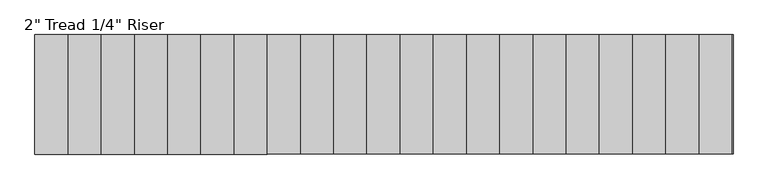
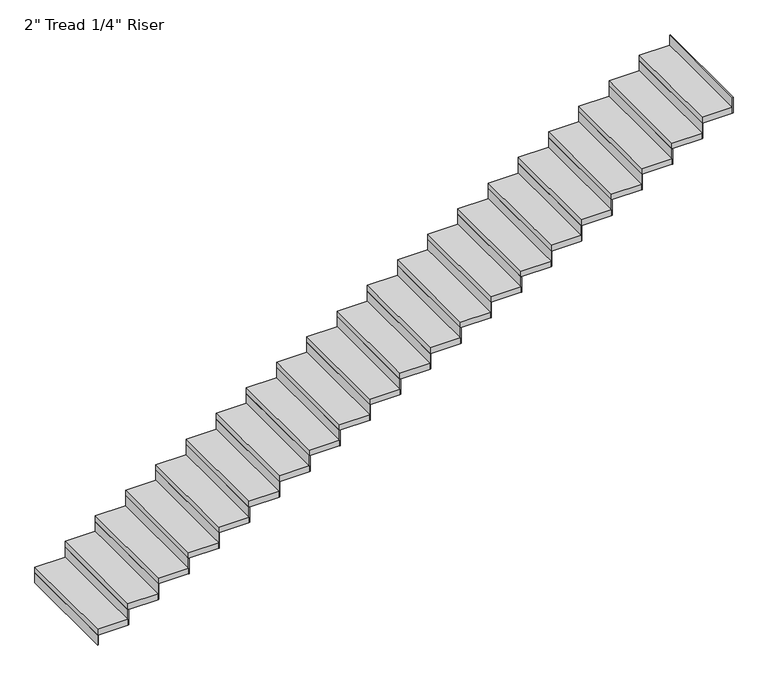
"""IFC4 building model written with IfcOpenShell, lengths in millimetres: stair flight geometry."""

from ifc_helpers import new_model, si_unit, frame, origin, origin_with_axes, place, context, project, spatial, polyline, outline, extrude, source, transform, mapped, element, save


def stair_flight_2d7099d6(model_context):
    return source(origin(), model_context, "Body", "SweptSolid", [
        extrude(outline(polyline([(10185.2072927, -70024.4426165), (10178.8572927, -70024.4426165), (10178.8572927, -69110.0426165), (10185.2072927, -69110.0426165), (10185.2072927, -70024.4426165)])), origin_with_axes(), (0.0, 0.0, 1.0), 87.7454545),
        extrude(outline(polyline([(10432.8572927, -69110.0426165), (10432.8572927, -70024.4426165), (10178.8572927, -70024.4426165), (10178.8572927, -69110.0426165), (10432.8572927, -69110.0426165)])), frame((0.0, 0.0, 87.7454545), z_axis=(0.0, 0.0, 1.0), x_axis=(1.0, 0.0, 0.0)), (0.0, 0.0, 1.0), 50.8),
        extrude(outline(polyline([(10439.2072927, -70024.4426165), (10432.8572927, -70024.4426165), (10432.8572927, -69110.0426165), (10439.2072927, -69110.0426165), (10439.2072927, -70024.4426165)])), frame((0.0, 0.0, 87.7454545), z_axis=(0.0, 0.0, 1.0), x_axis=(1.0, 0.0, 0.0)), (0.0, 0.0, 1.0), 138.5454545),
        extrude(outline(polyline([(10686.8572927, -69110.0426165), (10686.8572927, -70024.4426165), (10432.8572927, -70024.4426165), (10432.8572927, -69110.0426165), (10686.8572927, -69110.0426165)])), frame((0.0, 0.0, 226.2909091), z_axis=(0.0, 0.0, 1.0), x_axis=(1.0, 0.0, 0.0)), (0.0, 0.0, 1.0), 50.8),
        extrude(outline(polyline([(10693.2072927, -70024.4426165), (10686.8572927, -70024.4426165), (10686.8572927, -69110.0426165), (10693.2072927, -69110.0426165), (10693.2072927, -70024.4426165)])), frame((0.0, 0.0, 226.2909091), z_axis=(0.0, 0.0, 1.0), x_axis=(1.0, 0.0, 0.0)), (0.0, 0.0, 1.0), 138.5454545),
        extrude(outline(polyline([(10940.8572927, -69110.0426165), (10940.8572927, -70024.4426165), (10686.8572927, -70024.4426165), (10686.8572927, -69110.0426165), (10940.8572927, -69110.0426165)])), frame((0.0, 0.0, 364.8363636), z_axis=(0.0, 0.0, 1.0), x_axis=(1.0, 0.0, 0.0)), (0.0, 0.0, 1.0), 50.8),
        extrude(outline(polyline([(10947.2072927, -70024.4426165), (10940.8572927, -70024.4426165), (10940.8572927, -69110.0426165), (10947.2072927, -69110.0426165), (10947.2072927, -70024.4426165)])), frame((0.0, 0.0, 364.8363636), z_axis=(0.0, 0.0, 1.0), x_axis=(1.0, 0.0, 0.0)), (0.0, 0.0, 1.0), 138.5454545),
        extrude(outline(polyline([(11194.8572927, -69110.0426165), (11194.8572927, -70024.4426165), (10940.8572927, -70024.4426165), (10940.8572927, -69110.0426165), (11194.8572927, -69110.0426165)])), frame((0.0, 0.0, 503.3818182), z_axis=(0.0, 0.0, 1.0), x_axis=(1.0, 0.0, 0.0)), (0.0, 0.0, 1.0), 50.8),
        extrude(outline(polyline([(11201.2072927, -70024.4426165), (11194.8572927, -70024.4426165), (11194.8572927, -69110.0426165), (11201.2072927, -69110.0426165), (11201.2072927, -70024.4426165)])), frame((0.0, 0.0, 503.3818182), z_axis=(0.0, 0.0, 1.0), x_axis=(1.0, 0.0, 0.0)), (0.0, 0.0, 1.0), 138.5454545),
        extrude(outline(polyline([(11448.8572927, -69110.0426165), (11448.8572927, -70024.4426165), (11194.8572927, -70024.4426165), (11194.8572927, -69110.0426165), (11448.8572927, -69110.0426165)])), frame((0.0, 0.0, 641.9272727), z_axis=(0.0, 0.0, 1.0), x_axis=(1.0, 0.0, 0.0)), (0.0, 0.0, 1.0), 50.8),
        extrude(outline(polyline([(11455.2072927, -70024.4426165), (11448.8572927, -70024.4426165), (11448.8572927, -69110.0426165), (11455.2072927, -69110.0426165), (11455.2072927, -70024.4426165)])), frame((0.0, 0.0, 641.9272727), z_axis=(0.0, 0.0, 1.0), x_axis=(1.0, 0.0, 0.0)), (0.0, 0.0, 1.0), 138.5454545),
        extrude(outline(polyline([(11702.8572927, -69110.0426165), (11702.8572927, -70024.4426165), (11448.8572927, -70024.4426165), (11448.8572927, -69110.0426165), (11702.8572927, -69110.0426165)])), frame((0.0, 0.0, 780.4727273), z_axis=(0.0, 0.0, 1.0), x_axis=(1.0, 0.0, 0.0)), (0.0, 0.0, 1.0), 50.8),
        extrude(outline(polyline([(11709.2072927, -70024.4426165), (11702.8572927, -70024.4426165), (11702.8572927, -69110.0426165), (11709.2072927, -69110.0426165), (11709.2072927, -70024.4426165)])), frame((0.0, 0.0, 780.4727273), z_axis=(0.0, 0.0, 1.0), x_axis=(1.0, 0.0, 0.0)), (0.0, 0.0, 1.0), 138.5454545),
        extrude(outline(polyline([(11956.8572927, -69110.0426165), (11956.8572927, -70024.4426165), (11702.8572927, -70024.4426165), (11702.8572927, -69110.0426165), (11956.8572927, -69110.0426165)])), frame((0.0, 0.0, 919.0181818), z_axis=(0.0, 0.0, 1.0), x_axis=(1.0, 0.0, 0.0)), (0.0, 0.0, 1.0), 50.8),
        extrude(outline(polyline([(11963.2072927, -70024.4426165), (11956.8572927, -70024.4426165), (11956.8572927, -69110.0426165), (11963.2072927, -69110.0426165), (11963.2072927, -70024.4426165)])), frame((0.0, 0.0, 919.0181818), z_axis=(0.0, 0.0, 1.0), x_axis=(1.0, 0.0, 0.0)), (0.0, 0.0, 1.0), 138.5454545),
        extrude(outline(polyline([(12210.8572927, -69110.0426165), (12210.8572927, -70024.4426165), (11956.8572927, -70024.4426165), (11956.8572927, -69110.0426165), (12210.8572927, -69110.0426165)])), frame((0.0, 0.0, 1057.5636364), z_axis=(0.0, 0.0, 1.0), x_axis=(1.0, 0.0, 0.0)), (0.0, 0.0, 1.0), 50.8),
        extrude(outline(polyline([(12217.2072927, -70024.4426165), (12210.8572927, -70024.4426165), (12210.8572927, -69110.0426165), (12217.2072927, -69110.0426165), (12217.2072927, -70024.4426165)])), frame((0.0, 0.0, 1057.5636364), z_axis=(0.0, 0.0, 1.0), x_axis=(1.0, 0.0, 0.0)), (0.0, 0.0, 1.0), 138.5454545),
        extrude(outline(polyline([(12464.8572927, -69110.0426165), (12464.8572927, -70024.4426165), (12210.8572927, -70024.4426165), (12210.8572927, -69110.0426165), (12464.8572927, -69110.0426165)])), frame((0.0, 0.0, 1196.1090909), z_axis=(0.0, 0.0, 1.0), x_axis=(1.0, 0.0, 0.0)), (0.0, 0.0, 1.0), 50.8),
        extrude(outline(polyline([(12471.2072927, -70024.4426165), (12464.8572927, -70024.4426165), (12464.8572927, -69110.0426165), (12471.2072927, -69110.0426165), (12471.2072927, -70024.4426165)])), frame((0.0, 0.0, 1196.1090909), z_axis=(0.0, 0.0, 1.0), x_axis=(1.0, 0.0, 0.0)), (0.0, 0.0, 1.0), 138.5454545),
        extrude(outline(polyline([(12718.8572927, -69110.0426165), (12718.8572927, -70024.4426165), (12464.8572927, -70024.4426165), (12464.8572927, -69110.0426165), (12718.8572927, -69110.0426165)])), frame((0.0, 0.0, 1334.6545455), z_axis=(0.0, 0.0, 1.0), x_axis=(1.0, 0.0, 0.0)), (0.0, 0.0, 1.0), 50.8),
        extrude(outline(polyline([(12725.2072927, -70024.4426165), (12718.8572927, -70024.4426165), (12718.8572927, -69110.0426165), (12725.2072927, -69110.0426165), (12725.2072927, -70024.4426165)])), frame((0.0, 0.0, 1334.6545455), z_axis=(0.0, 0.0, 1.0), x_axis=(1.0, 0.0, 0.0)), (0.0, 0.0, 1.0), 138.5454545),
        extrude(outline(polyline([(12972.8572927, -69110.0426165), (12972.8572927, -70024.4426165), (12718.8572927, -70024.4426165), (12718.8572927, -69110.0426165), (12972.8572927, -69110.0426165)])), frame((0.0, 0.0, 1473.2), z_axis=(0.0, 0.0, 1.0), x_axis=(1.0, 0.0, 0.0)), (0.0, 0.0, 1.0), 50.8),
        extrude(outline(polyline([(12979.2072927, -70024.4426165), (12972.8572927, -70024.4426165), (12972.8572927, -69110.0426165), (12979.2072927, -69110.0426165), (12979.2072927, -70024.4426165)])), frame((0.0, 0.0, 1473.2), z_axis=(0.0, 0.0, 1.0), x_axis=(1.0, 0.0, 0.0)), (0.0, 0.0, 1.0), 138.5454545),
        extrude(outline(polyline([(13226.8572927, -69110.0426165), (13226.8572927, -70024.4426165), (12972.8572927, -70024.4426165), (12972.8572927, -69110.0426165), (13226.8572927, -69110.0426165)])), frame((0.0, 0.0, 1611.7454545), z_axis=(0.0, 0.0, 1.0), x_axis=(1.0, 0.0, 0.0)), (0.0, 0.0, 1.0), 50.8),
        extrude(outline(polyline([(13233.2072927, -70024.4426165), (13226.8572927, -70024.4426165), (13226.8572927, -69110.0426165), (13233.2072927, -69110.0426165), (13233.2072927, -70024.4426165)])), frame((0.0, 0.0, 1611.7454545), z_axis=(0.0, 0.0, 1.0), x_axis=(1.0, 0.0, 0.0)), (0.0, 0.0, 1.0), 138.5454545),
        extrude(outline(polyline([(13480.8572927, -69110.0426165), (13480.8572927, -70024.4426165), (13226.8572927, -70024.4426165), (13226.8572927, -69110.0426165), (13480.8572927, -69110.0426165)])), frame((0.0, 0.0, 1750.2909091), z_axis=(0.0, 0.0, 1.0), x_axis=(1.0, 0.0, 0.0)), (0.0, 0.0, 1.0), 50.8),
        extrude(outline(polyline([(13487.2072927, -70024.4426165), (13480.8572927, -70024.4426165), (13480.8572927, -69110.0426165), (13487.2072927, -69110.0426165), (13487.2072927, -70024.4426165)])), frame((0.0, 0.0, 1750.2909091), z_axis=(0.0, 0.0, 1.0), x_axis=(1.0, 0.0, 0.0)), (0.0, 0.0, 1.0), 138.5454545),
        extrude(outline(polyline([(13734.8572927, -69110.0426165), (13734.8572927, -70024.4426165), (13480.8572927, -70024.4426165), (13480.8572927, -69110.0426165), (13734.8572927, -69110.0426165)])), frame((0.0, 0.0, 1888.8363636), z_axis=(0.0, 0.0, 1.0), x_axis=(1.0, 0.0, 0.0)), (0.0, 0.0, 1.0), 50.8),
        extrude(outline(polyline([(13741.2072927, -70024.4426165), (13734.8572927, -70024.4426165), (13734.8572927, -69110.0426165), (13741.2072927, -69110.0426165), (13741.2072927, -70024.4426165)])), frame((0.0, 0.0, 1888.8363636), z_axis=(0.0, 0.0, 1.0), x_axis=(1.0, 0.0, 0.0)), (0.0, 0.0, 1.0), 138.5454545),
        extrude(outline(polyline([(13988.8572927, -69110.0426165), (13988.8572927, -70024.4426165), (13734.8572927, -70024.4426165), (13734.8572927, -69110.0426165), (13988.8572927, -69110.0426165)])), frame((0.0, 0.0, 2027.3818182), z_axis=(0.0, 0.0, 1.0), x_axis=(1.0, 0.0, 0.0)), (0.0, 0.0, 1.0), 50.8),
        extrude(outline(polyline([(13995.2072927, -70024.4426165), (13988.8572927, -70024.4426165), (13988.8572927, -69110.0426165), (13995.2072927, -69110.0426165), (13995.2072927, -70024.4426165)])), frame((0.0, 0.0, 2027.3818182), z_axis=(0.0, 0.0, 1.0), x_axis=(1.0, 0.0, 0.0)), (0.0, 0.0, 1.0), 138.5454545),
        extrude(outline(polyline([(14242.8572927, -69110.0426165), (14242.8572927, -70024.4426165), (13988.8572927, -70024.4426165), (13988.8572927, -69110.0426165), (14242.8572927, -69110.0426165)])), frame((0.0, 0.0, 2165.9272727), z_axis=(0.0, 0.0, 1.0), x_axis=(1.0, 0.0, 0.0)), (0.0, 0.0, 1.0), 50.8),
        extrude(outline(polyline([(14249.2072927, -70024.4426165), (14242.8572927, -70024.4426165), (14242.8572927, -69110.0426165), (14249.2072927, -69110.0426165), (14249.2072927, -70024.4426165)])), frame((0.0, 0.0, 2165.9272727), z_axis=(0.0, 0.0, 1.0), x_axis=(1.0, 0.0, 0.0)), (0.0, 0.0, 1.0), 138.5454545),
        extrude(outline(polyline([(14496.8572927, -69110.0426165), (14496.8572927, -70024.4426165), (14242.8572927, -70024.4426165), (14242.8572927, -69110.0426165), (14496.8572927, -69110.0426165)])), frame((0.0, 0.0, 2304.4727273), z_axis=(0.0, 0.0, 1.0), x_axis=(1.0, 0.0, 0.0)), (0.0, 0.0, 1.0), 50.8),
        extrude(outline(polyline([(14503.2072927, -70024.4426165), (14496.8572927, -70024.4426165), (14496.8572927, -69110.0426165), (14503.2072927, -69110.0426165), (14503.2072927, -70024.4426165)])), frame((0.0, 0.0, 2304.4727273), z_axis=(0.0, 0.0, 1.0), x_axis=(1.0, 0.0, 0.0)), (0.0, 0.0, 1.0), 138.5454545),
        extrude(outline(polyline([(14750.8572927, -69110.0426165), (14750.8572927, -70024.4426165), (14496.8572927, -70024.4426165), (14496.8572927, -69110.0426165), (14750.8572927, -69110.0426165)])), frame((0.0, 0.0, 2443.0181818), z_axis=(0.0, 0.0, 1.0), x_axis=(1.0, 0.0, 0.0)), (0.0, 0.0, 1.0), 50.8),
        extrude(outline(polyline([(14757.2072927, -70024.4426165), (14750.8572927, -70024.4426165), (14750.8572927, -69110.0426165), (14757.2072927, -69110.0426165), (14757.2072927, -70024.4426165)])), frame((0.0, 0.0, 2443.0181818), z_axis=(0.0, 0.0, 1.0), x_axis=(1.0, 0.0, 0.0)), (0.0, 0.0, 1.0), 138.5454545),
        extrude(outline(polyline([(15004.8572927, -69110.0426165), (15004.8572927, -70024.4426165), (14750.8572927, -70024.4426165), (14750.8572927, -69110.0426165), (15004.8572927, -69110.0426165)])), frame((0.0, 0.0, 2581.5636364), z_axis=(0.0, 0.0, 1.0), x_axis=(1.0, 0.0, 0.0)), (0.0, 0.0, 1.0), 50.8),
        extrude(outline(polyline([(15011.2072927, -70024.4426165), (15004.8572927, -70024.4426165), (15004.8572927, -69110.0426165), (15011.2072927, -69110.0426165), (15011.2072927, -70024.4426165)])), frame((0.0, 0.0, 2581.5636364), z_axis=(0.0, 0.0, 1.0), x_axis=(1.0, 0.0, 0.0)), (0.0, 0.0, 1.0), 138.5454545),
        extrude(outline(polyline([(15258.8572927, -69110.0426165), (15258.8572927, -70024.4426165), (15004.8572927, -70024.4426165), (15004.8572927, -69110.0426165), (15258.8572927, -69110.0426165)])), frame((0.0, 0.0, 2720.1090909), z_axis=(0.0, 0.0, 1.0), x_axis=(1.0, 0.0, 0.0)), (0.0, 0.0, 1.0), 50.8),
        extrude(outline(polyline([(15265.2072927, -70024.4426165), (15258.8572927, -70024.4426165), (15258.8572927, -69110.0426165), (15265.2072927, -69110.0426165), (15265.2072927, -70024.4426165)])), frame((0.0, 0.0, 2720.1090909), z_axis=(0.0, 0.0, 1.0), x_axis=(1.0, 0.0, 0.0)), (0.0, 0.0, 1.0), 138.5454545),
        extrude(outline(polyline([(15519.2072927, -70024.4426165), (15512.8572927, -70024.4426165), (15512.8572927, -69110.0426165), (15519.2072927, -69110.0426165), (15519.2072927, -70024.4426165)])), frame((0.0, 0.0, 2858.6545455), z_axis=(0.0, 0.0, 1.0), x_axis=(1.0, 0.0, 0.0)), (0.0, 0.0, 1.0), 138.5454545),
        extrude(outline(polyline([(15512.8572927, -69110.0426165), (15512.8572927, -70024.4426165), (15258.8572927, -70024.4426165), (15258.8572927, -69110.0426165), (15512.8572927, -69110.0426165)])), frame((0.0, 0.0, 2858.6545455), z_axis=(0.0, 0.0, 1.0), x_axis=(1.0, 0.0, 0.0)), (0.0, 0.0, 1.0), 50.8),
    ])


if __name__ == "__main__":
    model = new_model("IFC4")
    model_context = context("Model", 3, world=origin())
    ifc_project = project(units=[si_unit("LENGTHUNIT", "METRE", prefix="MILLI")], contexts=[model_context])
    site = spatial("IfcSite", under=ifc_project)
    building = spatial("IfcBuilding", under=site)
    placement = place(None, origin())
    stair_flight_shape = stair_flight_2d7099d6(model_context)
    element("IfcStairFlight", 1, ObjectType="2\" Tread 1/4\" Riser", at=placement, inside=building, context=model_context, shape_type="MappedRepresentation", body=[
        mapped(stair_flight_shape, transform((0.0, 0.0, 0.0), x_axis=(1.0, 0.0, 0.0), y_axis=(0.0, 1.0, 0.0), z_axis=(0.0, 0.0, 1.0))),
    ])
    save(model, "model.ifc")
